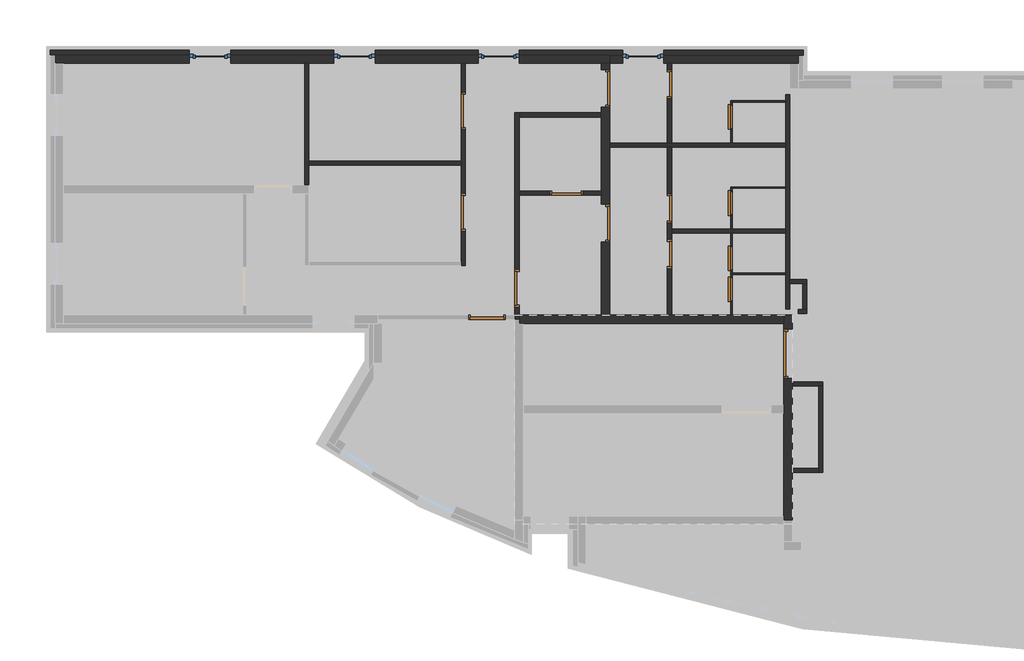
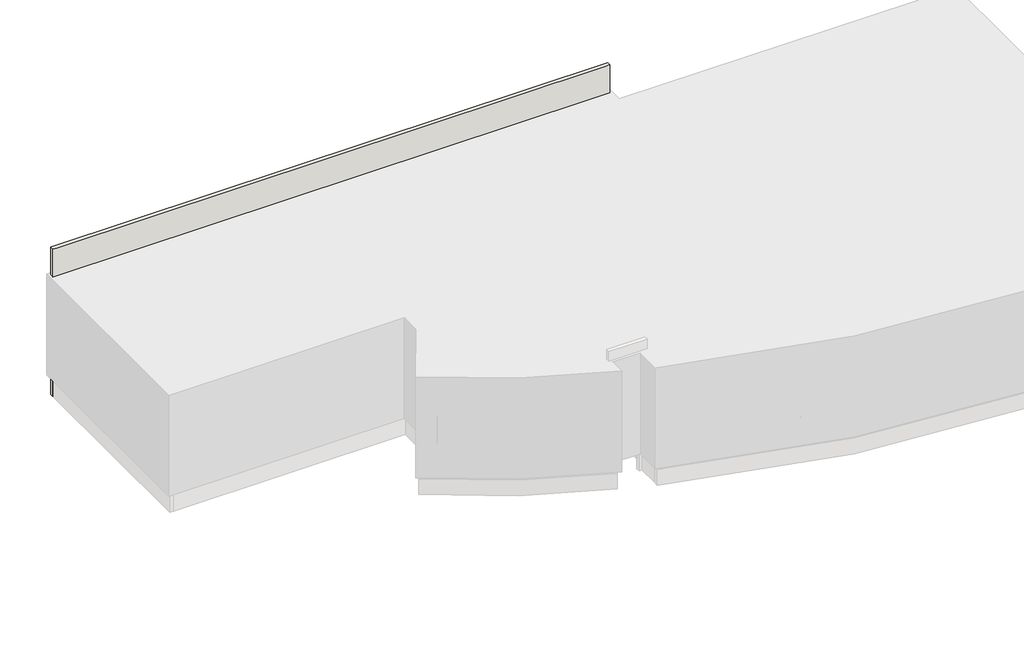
# One storey, part 3 of 4: 28 walls, 15 doors, 5 windows.
"""IFC4 building model written with IfcOpenShell, lengths in millimetres."""

from ifc_helpers import new_model, si_unit, frame, origin, place, context, project, spatial, polyline, outline, extrude, faceted_brep, transform, mapped, element, save
from components import door_d1c1a40c, door_af16f654, door_10fb9903, door_d8726fa8, door_8baa2d43, door_2df90ca5, door_64e12b20, door_9d3fb36d, door_8b928317, window_8d913581, window_b37a0a77

model = new_model("IFC4")

# Units and contexts
model_context = context("Model", 3, world=origin())
ifc_project = project(units=[si_unit("LENGTHUNIT", "METRE", prefix="MILLI")], contexts=[model_context])

# Site, building, storey
site = spatial("IfcSite", under=ifc_project)
building = spatial("IfcBuilding", under=site)
storey = spatial("IfcBuildingStorey", under=building, Name="Этаж 2", Elevation=3600.0)

# Doors
placement = place(None, origin())
door_shape = door_d1c1a40c(model_context)
element("IfcDoor", 1, ObjectType="(Dr)_ДУ(распашная)_1Ст_Прямоугольная : (Вн)_ДГ(0.91х2.1(h))", at=placement, inside=storey, context=model_context, shape_type="MappedRepresentation", body=[
    mapped(door_shape, transform((8300.4524319, 9834.6312226, 3600.0), x_axis=(0.0, 1.0, 0.0), y_axis=(-1.0, 0.0, 0.0), z_axis=(0.0, 0.0, 1.0))),
])
element("IfcDoor", 2, ObjectType="(Dr)_ДУ(распашная)_1Ст_Прямоугольная : (Вн)_ДГ(0.91х2.1(h))", at=placement, inside=storey, context=model_context, shape_type="MappedRepresentation", body=[
    mapped(door_shape, transform((8300.4524319, 7375.0, 3600.0), x_axis=(0.0, 1.0, 0.0), y_axis=(-1.0, 0.0, 0.0), z_axis=(0.0, 0.0, 1.0))),
])
element("IfcDoor", 3, ObjectType="(Dr)_ДУ(распашная)_1Ст_Прямоугольная : (Вн)_ДГ(0.91х2.1(h))", at=placement, inside=storey, context=model_context, shape_type="MappedRepresentation", body=[
    mapped(door_shape, transform((8875.1478669, 4830.0, 3600.0), x_axis=(-1.0, 0.0, 0.0), y_axis=(0.0, -1.0, 0.0), z_axis=(0.0, 0.0, 1.0))),
])
element("IfcDoor", 4, ObjectType="(Dr)_ДУ(распашная)_1Ст_Прямоугольная : (Вн)_ДГ(0.91х2.1(h))", at=placement, inside=storey, context=model_context, shape_type="MappedRepresentation", body=[
    mapped(door_shape, transform((9600.291724, 5534.5546453, 3600.0), x_axis=(0.0, 1.0, 0.0), y_axis=(-1.0, 0.0, 0.0), z_axis=(0.0, 0.0, 1.0))),
])
door_2_shape = door_af16f654(model_context)
element("IfcDoor", 5, ObjectType="(Dr)_ДУ(распашная)_1Ст_Прямоугольная : (Вн)_ДГ(0.91х2.1(h))", at=placement, inside=storey, context=model_context, shape_type="MappedRepresentation", body=[
    mapped(door_2_shape, transform((11750.0, 10382.7208987, 3600.0), x_axis=(0.0, -1.0, 0.0), y_axis=(1.0, 0.0, 0.0), z_axis=(0.0, 0.0, 1.0))),
])
door_3_shape = door_10fb9903(model_context)
element("IfcDoor", 6, ObjectType="(Dr)_ДУ(распашная)_1Ст_Прямоугольная : (Вн)_ДГ(0.81х2.1(h))", at=placement, inside=storey, context=model_context, shape_type="MappedRepresentation", body=[
    mapped(door_3_shape, transform((10805.0, 7840.0000036, 3600.0), x_axis=(-1.0, 0.0, 0.0), y_axis=(0.0, -1.0, 0.0), z_axis=(0.0, 0.0, 1.0))),
])
door_4_shape = door_d8726fa8(model_context)
element("IfcDoor", 7, ObjectType="(Dr)_ДУ(распашная)_1Ст_Прямоугольная : (Вн)_ДГ(0.71х2.1(h))", at=placement, inside=storey, context=model_context, shape_type="MappedRepresentation", body=[
    mapped(door_4_shape, transform((13299.9988356, 6365.1415948, 3600.0), x_axis=(0.0, -1.0, 0.0), y_axis=(1.0, 0.0, 0.0), z_axis=(0.0, 0.0, 1.0))),
])
element("IfcDoor", 8, ObjectType="(Dr)_ДУ(распашная)_1Ст_Прямоугольная : (Вн)_ДГ(0.71х2.1(h))", at=placement, inside=storey, context=model_context, shape_type="MappedRepresentation", body=[
    mapped(door_4_shape, transform((13299.9988356, 10484.6777763, 3600.0), x_axis=(0.0, -1.0, 0.0), y_axis=(1.0, 0.0, 0.0), z_axis=(0.0, 0.0, 1.0))),
])
door_5_shape = door_8baa2d43(model_context)
element("IfcDoor", 9, ObjectType="(Dr)_ДУ(распашная)_1Ст_Прямоугольная : (Вн)_ДГ(0.71х2.1(h))", at=placement, inside=storey, context=model_context, shape_type="MappedRepresentation", body=[
    mapped(door_5_shape, transform((13299.9988356, 7474.6501506, 3600.0), x_axis=(0.0, -1.0, 0.0), y_axis=(1.0, 0.0, 0.0), z_axis=(0.0, 0.0, 1.0))),
])
door_6_shape = door_2df90ca5(model_context)
element("IfcDoor", 10, ObjectType="(Dr)_ДУ(распашная)_1Ст_Прямоугольная : (Вн)_ДГ(0.6х2.1(h)) с/у", at=placement, inside=storey, context=model_context, shape_type="MappedRepresentation", body=[
    mapped(door_6_shape, transform((14804.9988356, 7600.0, 3600.0), x_axis=(0.0, -1.0, 0.0), y_axis=(1.0, 0.0, 0.0), z_axis=(0.0, 0.0, 1.0))),
])
element("IfcDoor", 11, ObjectType="(Dr)_ДУ(распашная)_1Ст_Прямоугольная : (Вн)_ДГ(0.6х2.1(h)) с/у", at=placement, inside=storey, context=model_context, shape_type="MappedRepresentation", body=[
    mapped(door_6_shape, transform((14804.9988356, 5510.0, 3600.0), x_axis=(0.0, -1.0, 0.0), y_axis=(1.0, 0.0, 0.0), z_axis=(0.0, 0.0, 1.0))),
])
element("IfcDoor", 12, ObjectType="(Dr)_ДУ(распашная)_1Ст_Прямоугольная : (Вн)_ДГ(0.6х2.1(h)) с/у", at=placement, inside=storey, context=model_context, shape_type="MappedRepresentation", body=[
    mapped(door_6_shape, transform((14804.9988356, 9690.0, 3600.0), x_axis=(0.0, -1.0, 0.0), y_axis=(1.0, 0.0, 0.0), z_axis=(0.0, 0.0, 1.0))),
])
door_7_shape = door_64e12b20(model_context)
element("IfcDoor", 13, ObjectType="(Dr)_ДУ(распашная)_1Ст_Прямоугольная : (Вн)_ДГ(0.6х2.1(h)) с/у", at=placement, inside=storey, context=model_context, shape_type="MappedRepresentation", body=[
    mapped(door_7_shape, transform((14804.9988356, 6260.0, 3600.0), x_axis=(0.0, -1.0, 0.0), y_axis=(1.0, 0.0, 0.0), z_axis=(0.0, 0.0, 1.0))),
])
door_8_shape = door_9d3fb36d(model_context)
element("IfcDoor", 14, ObjectType="(Dr)_ДУ(распашная)_1Ст_Прямоугольная : (Вн)_ДГ(1.20х2.1(h))", at=placement, inside=storey, context=model_context, shape_type="MappedRepresentation", body=[
    mapped(door_8_shape, transform((16170.291724, 3940.0, 3600.0), x_axis=(0.0, 1.0, 0.0), y_axis=(-1.0, 0.0, 0.0), z_axis=(0.0, 0.0, 1.0))),
])
door_9_shape = door_8b928317(model_context)
element("IfcDoor", 15, ObjectType="(Dr)_ДУ(распашная)_1Ст_Прямоугольная : (Вн)_ДГ(0.92х2.1(h))", at=placement, inside=storey, context=model_context, shape_type="MappedRepresentation", body=[
    mapped(door_9_shape, transform((11750.0, 7109.9999665, 3600.0), x_axis=(0.0, -1.0, 0.0), y_axis=(1.0, 0.0, 0.0), z_axis=(0.0, 0.0, 1.0))),
])

# Walls
element("IfcWall", 16, ObjectType="(Нр)_(ЖБ-200)", at=placement, inside=storey, context=model_context, shape_type="Brep", body=[
    faceted_brep([(-1595.9332962, 10990.0, 3500.0), (-1395.9332962, 10990.0, 3500.0), (11650.0, 10990.0, 3500.0), (11850.0, 10990.0, 3500.0), (11850.0, 10990.0, 6900.0), (11650.0, 10990.0, 6900.0), (-1395.9332962, 10990.0, 6900.0), (-1595.9332962, 10990.0, 6900.0), (1660.0, 10990.0, 6420.0), (2660.0, 10990.0, 6420.0), (2660.0, 10990.0, 4420.0), (1660.0, 10990.0, 4420.0), (5160.0, 10990.0, 6420.0), (6160.0, 10990.0, 6420.0), (6160.0, 10990.0, 4420.0), (5160.0, 10990.0, 4420.0), (8660.0, 10990.0, 6420.0), (9660.0, 10990.0, 6420.0), (9660.0, 10990.0, 4420.0), (8660.0, 10990.0, 4420.0), (-1595.9332962, 11190.0, 3500.0), (-1595.9332962, 11190.0, 6900.0), (11850.0, 11190.0, 6900.0), (11850.0, 11190.0, 3500.0), (1660.0, 11190.0, 6420.0), (1660.0, 11190.0, 4420.0), (2660.0, 11190.0, 4420.0), (2660.0, 11190.0, 6420.0), (5160.0, 11190.0, 6420.0), (5160.0, 11190.0, 4420.0), (6160.0, 11190.0, 4420.0), (6160.0, 11190.0, 6420.0), (8660.0, 11190.0, 6420.0), (8660.0, 11190.0, 4420.0), (9660.0, 11190.0, 4420.0), (9660.0, 11190.0, 6420.0)], [[[0, 1, 2, 3, 4, 5, 6, 7], [8, 9, 10, 11], [12, 13, 14, 15], [16, 17, 18, 19]], [[20, 21, 22, 23], [24, 25, 26, 27], [28, 29, 30, 31], [32, 33, 34, 35]], [[3, 2, 1, 0, 20, 23]], [[7, 6, 5, 4, 22, 21]], [[0, 7, 21, 20]], [[4, 3, 23, 22]], [[25, 24, 8, 11]], [[26, 25, 11, 10]], [[27, 26, 10, 9]], [[24, 27, 9, 8]], [[29, 28, 12, 15]], [[30, 29, 15, 14]], [[31, 30, 14, 13]], [[28, 31, 13, 12]], [[33, 32, 16, 19]], [[34, 33, 19, 18]], [[35, 34, 18, 17]], [[32, 35, 17, 16]]]),
])
element("IfcWall", 17, ObjectType="(Вн)_(Пг-100)", at=placement, inside=storey, context=model_context, shape_type="Brep", body=[
    faceted_brep([(4450.043372, 10990.0, 3500.0), (4450.043372, 8035.0, 3500.0), (4450.043372, 8035.0, 6900.0), (4450.043372, 10990.0, 6900.0), (4550.043372, 10990.0, 3500.0), (4550.043372, 10990.0, 6900.0), (4550.043372, 8620.1348886, 6900.0), (4550.043372, 8520.1348886, 6900.0), (4550.043372, 8035.0, 6900.0), (4550.043372, 8035.0, 3500.0), (4550.043372, 8520.1348886, 3500.0), (4550.043372, 8620.1348886, 3500.0)], [[[0, 1, 2, 3]], [[4, 5, 6, 7, 8, 9, 10, 11]], [[1, 0, 4, 11, 10, 9]], [[3, 2, 8, 7, 6, 5]], [[2, 1, 9, 8]], [[0, 3, 5, 4]]]),
])
element("IfcWall", 18, ObjectType="(Нр)_(Ут-120.От-90)", at=placement, inside=storey, context=model_context, shape_type="Brep", body=[
    faceted_brep([(-1715.9332962, 11190.0, 8070.0), (-1715.9332962, 11190.0, 6900.0), (-1715.9332962, 11190.0, 2955.0), (-1595.9332962, 11190.0, 2955.0), (16539.9987544, 11190.0, 2955.0), (16539.9987544, 11190.0, 3501.2887174), (16539.9987544, 11190.0, 6700.0), (16539.9987544, 11190.0, 8070.0), (16369.9987544, 11190.0, 8070.0), (-1595.9332962, 11190.0, 8070.0), (1660.0, 11190.0, 6420.0), (2660.0, 11190.0, 6420.0), (2660.0, 11190.0, 4420.0), (1660.0, 11190.0, 4420.0), (5160.0, 11190.0, 6420.0), (6160.0, 11190.0, 6420.0), (6160.0, 11190.0, 4420.0), (5160.0, 11190.0, 4420.0), (8660.0, 11190.0, 6420.0), (9660.0, 11190.0, 6420.0), (9660.0, 11190.0, 4420.0), (8660.0, 11190.0, 4420.0), (12159.847258, 11190.0, 6420.0), (13159.847258, 11190.0, 6420.0), (13159.847258, 11190.0, 4420.0), (12159.847258, 11190.0, 4420.0), (-1715.9332962, 11310.0, 2955.0), (-1715.9332962, 11310.0, 8070.0), (16539.9987544, 11310.0, 8070.0), (16539.9987544, 11310.0, 2955.0), (2660.0, 11310.0, 6420.0), (1660.0, 11310.0, 6420.0), (1660.0, 11310.0, 4460.0), (2660.0, 11310.0, 4460.0), (6160.0, 11310.0, 6420.0), (5160.0, 11310.0, 6420.0), (5160.0, 11310.0, 4460.0), (6160.0, 11310.0, 4460.0), (9660.0, 11310.0, 6420.0), (8660.0, 11310.0, 6420.0), (8660.0, 11310.0, 4460.0), (9660.0, 11310.0, 4460.0), (13159.847258, 11310.0, 6420.0), (12159.847258, 11310.0, 6420.0), (12159.847258, 11310.0, 4460.0), (13159.847258, 11310.0, 4460.0), (1660.0, 11210.0, 4420.0), (2660.0, 11210.0, 4420.0), (2660.0, 11210.0, 4460.0), (1660.0, 11210.0, 4460.0), (1660.0, 11285.434827, 6420.0), (2660.0, 11285.434827, 6420.0), (1660.0, 11285.434827, 4460.0), (2660.0, 11285.434827, 4460.0), (5160.0, 11210.0, 4420.0), (6160.0, 11210.0, 4420.0), (6160.0, 11210.0, 4460.0), (5160.0, 11210.0, 4460.0), (5160.0, 11285.434827, 6420.0), (6160.0, 11285.434827, 6420.0), (5160.0, 11285.434827, 4460.0), (6160.0, 11285.434827, 4460.0), (8660.0, 11210.0, 4420.0), (9660.0, 11210.0, 4420.0), (9660.0, 11210.0, 4460.0), (8660.0, 11210.0, 4460.0), (8660.0, 11285.434827, 6420.0), (9660.0, 11285.434827, 6420.0), (8660.0, 11285.434827, 4460.0), (9660.0, 11285.434827, 4460.0), (12159.847258, 11210.0, 4420.0), (13159.847258, 11210.0, 4420.0), (13159.847258, 11210.0, 4460.0), (12159.847258, 11210.0, 4460.0), (12159.847258, 11285.434827, 6420.0), (13159.847258, 11285.434827, 6420.0), (12159.847258, 11285.434827, 4460.0), (13159.847258, 11285.434827, 4460.0)], [[[0, 1, 2, 3, 4, 5, 6, 7, 8, 9], [10, 11, 12, 13], [14, 15, 16, 17], [18, 19, 20, 21], [22, 23, 24, 25]], [[26, 27, 28, 29], [30, 31, 32, 33], [34, 35, 36, 37], [38, 39, 40, 41], [42, 43, 44, 45]], [[4, 3, 2, 26, 29]], [[0, 9, 8, 7, 28, 27]], [[0, 27, 26, 2, 1]], [[4, 29, 28, 7, 6, 5]], [[46, 47, 48, 49]], [[11, 10, 50, 31, 30, 51]], [[13, 46, 49, 52, 32, 31, 50, 10]], [[47, 46, 13, 12]], [[47, 12, 11, 51, 30, 33, 53, 48]], [[33, 32, 52, 49, 48, 53]], [[54, 55, 56, 57]], [[15, 14, 58, 35, 34, 59]], [[17, 54, 57, 60, 36, 35, 58, 14]], [[55, 54, 17, 16]], [[55, 16, 15, 59, 34, 37, 61, 56]], [[37, 36, 60, 57, 56, 61]], [[62, 63, 64, 65]], [[19, 18, 66, 39, 38, 67]], [[21, 62, 65, 68, 40, 39, 66, 18]], [[63, 62, 21, 20]], [[63, 20, 19, 67, 38, 41, 69, 64]], [[41, 40, 68, 65, 64, 69]], [[70, 71, 72, 73]], [[23, 22, 74, 43, 42, 75]], [[25, 70, 73, 76, 44, 43, 74, 22]], [[71, 70, 25, 24]], [[71, 24, 23, 75, 42, 45, 77, 72]], [[45, 44, 76, 73, 72, 77]]]),
])
element("IfcWall", 19, ObjectType="(Вн)_(Пг-100)", at=placement, inside=storey, context=model_context, shape_type="SweptSolid", body=[
    extrude(outline(polyline([(8250.4524319, 8520.1348886), (4550.043372, 8520.1348886), (4550.043372, 8620.1348886), (8250.4524319, 8620.1348886), (8250.4524319, 8520.1348886)])), frame((0.0, 0.0, 3500.0), z_axis=(0.0, 0.0, 1.0), x_axis=(1.0, 0.0, 0.0)), (0.0, 0.0, 1.0), 3400.0),
])
element("IfcWall", 20, ObjectType="(Вн)_(Пг-100)", at=placement, inside=storey, context=model_context, shape_type="Brep", body=[
    faceted_brep([(8350.4524319, 6080.2697772, 3500.0), (8350.4524319, 10990.0, 3500.0), (8350.4524319, 10990.0, 6900.0), (8350.4524319, 6080.2697772, 6900.0), (8350.4524319, 10289.6312226, 5700.0), (8350.4524319, 10289.6312226, 3600.0), (8350.4524319, 9379.6312226, 3600.0), (8350.4524319, 9379.6312226, 5700.0), (8350.4524319, 7830.0, 5700.0), (8350.4524319, 7830.0, 3600.0), (8350.4524319, 6920.0, 3600.0), (8350.4524319, 6920.0, 5700.0), (8250.4524319, 6080.2697772, 3500.0), (8250.4524319, 6080.2697772, 6900.0), (8250.4524319, 6180.2697772, 6900.0), (8250.4524319, 8520.1348886, 6900.0), (8250.4524319, 8620.1348886, 6900.0), (8250.4524319, 10990.0, 6900.0), (8250.4524319, 10990.0, 3500.0), (8250.4524319, 8620.1348886, 3500.0), (8250.4524319, 8520.1348886, 3500.0), (8250.4524319, 6180.2697772, 3500.0), (8250.4524319, 10289.6312226, 3600.0), (8250.4524319, 10289.6312226, 5700.0), (8250.4524319, 9379.6312226, 5700.0), (8250.4524319, 9379.6312226, 3600.0), (8250.4524319, 7830.0, 3600.0), (8250.4524319, 7830.0, 5700.0), (8250.4524319, 6920.0, 5700.0), (8250.4524319, 6920.0, 3600.0)], [[[0, 1, 2, 3], [4, 5, 6, 7], [8, 9, 10, 11]], [[12, 13, 14, 15, 16, 17, 18, 19, 20, 21], [22, 23, 24, 25], [26, 27, 28, 29]], [[1, 0, 12, 21, 20, 19, 18]], [[3, 2, 17, 16, 15, 14, 13]], [[2, 1, 18, 17]], [[22, 5, 4, 23]], [[23, 4, 7, 24]], [[24, 7, 6, 25]], [[5, 22, 25, 6]], [[26, 9, 8, 27]], [[27, 8, 11, 28]], [[28, 11, 10, 29]], [[9, 26, 29, 10]], [[0, 3, 13, 12]]]),
])
element("IfcWall", 21, ObjectType="(Вн)_(Пг-100)", at=placement, inside=storey, context=model_context, shape_type="Brep", body=[
    faceted_brep([(9650.291724, 4780.0, 6900.0), (9650.291724, 4780.0, 3500.0), (9650.291724, 7790.0000036, 3500.0), (9650.291724, 7890.0000036, 3500.0), (9650.291724, 9689.9113454, 3500.0), (9650.291724, 9789.9113454, 3500.0), (9650.291724, 9789.9113454, 6900.0), (9650.291724, 9689.9113454, 6900.0), (9650.291724, 7890.0000036, 6900.0), (9650.291724, 7790.0000036, 6900.0), (9650.291724, 5989.5546453, 5700.0), (9650.291724, 5989.5546453, 3600.0), (9650.291724, 5079.5546453, 3600.0), (9650.291724, 5079.5546453, 5700.0), (9550.291724, 4780.0, 3500.0), (9550.291724, 4780.0, 6900.0), (9550.291724, 4880.0, 6900.0), (9550.291724, 9789.9113454, 6900.0), (9550.291724, 9789.9113454, 3500.0), (9550.291724, 4880.0, 3500.0), (9550.291724, 5989.5546453, 3600.0), (9550.291724, 5989.5546453, 5700.0), (9550.291724, 5079.5546453, 5700.0), (9550.291724, 5079.5546453, 3600.0)], [[[0, 1, 2, 3, 4, 5, 6, 7, 8, 9], [10, 11, 12, 13]], [[14, 15, 16, 17, 18, 19], [20, 21, 22, 23]], [[5, 4, 3, 2, 1, 14, 19, 18]], [[0, 9, 8, 7, 6, 17, 16, 15]], [[6, 5, 18, 17]], [[0, 15, 14, 1]], [[20, 11, 10, 21]], [[21, 10, 13, 22]], [[22, 13, 12, 23]], [[11, 20, 23, 12]]]),
])
element("IfcWall", 22, ObjectType="(Вн)_(Пг-100)", at=placement, inside=storey, context=model_context, shape_type="SweptSolid", body=[
    extrude(outline(polyline([(11650.0, 9689.9113454), (9650.291724, 9689.9113454), (9650.291724, 9789.9113454), (11650.0, 9789.9113454), (11650.0, 9689.9113454)])), frame((0.0, 0.0, 3500.0), z_axis=(0.0, 0.0, 1.0), x_axis=(1.0, 0.0, 0.0)), (0.0, 0.0, 1.0), 3400.0),
])
element("IfcWall", 23, ObjectType="(Вн)_(Пг-100)", at=placement, inside=storey, context=model_context, shape_type="SweptSolid", body=[
    extrude(outline(polyline([(3500.0, 9650.291724), (3500.0, 11650.0), (6900.0, 11650.0), (6900.0, 9650.291724), (3500.0, 9650.291724)]), holes=[polyline([(3600.0, 10400.0), (5700.0, 10400.0), (5700.0, 11210.0), (3600.0, 11210.0), (3600.0, 10400.0)])]), frame((0.0, 7790.0000036, 0.0), z_axis=(0.0, 1.0, 0.0), x_axis=(0.0, 0.0, 1.0)), (0.0, 0.0, 1.0), 100.0),
])
element("IfcWall", 24, ObjectType="(Вн)_(ЖБ-200)", at=placement, inside=storey, context=model_context, shape_type="SweptSolid", body=[
    extrude(outline(polyline([(10990.0, 3500.0), (4880.0, 3500.0), (4880.0, 6900.0), (10990.0, 6900.0), (10990.0, 3500.0)]), holes=[polyline([(6649.9999665, 5700.0), (6649.9999665, 3600.0), (7569.9999665, 3600.0), (7569.9999665, 5700.0), (6649.9999665, 5700.0)]), polyline([(9927.7208987, 5700.0), (9927.7208987, 3600.0), (10837.7208987, 3600.0), (10837.7208987, 5700.0), (9927.7208987, 5700.0)])]), frame((11650.0, 0.0, 0.0), z_axis=(1.0, 0.0, 0.0), x_axis=(0.0, 1.0, 0.0)), (0.0, 0.0, 1.0), 200.0),
])
element("IfcWall", 25, ObjectType="(Вн).(Пг-100) Влагостойкий", at=placement, inside=storey, context=model_context, shape_type="Brep", body=[
    faceted_brep([(11850.0, 8960.0, 3500.0), (13249.9988356, 8960.0, 3500.0), (13349.9988356, 8960.0, 3500.0), (16119.9988356, 8960.0, 3500.0), (16119.9988356, 8960.0, 6900.0), (13349.9988356, 8960.0, 6900.0), (13249.9988356, 8960.0, 6900.0), (11850.0, 8960.0, 6900.0), (11850.0, 9060.0, 3500.0), (11850.0, 9060.0, 6900.0), (13249.9988356, 9060.0, 6900.0), (13349.9988356, 9060.0, 6900.0), (16119.9988356, 9060.0, 6900.0), (16119.9988356, 9060.0, 3500.0), (13349.9988356, 9060.0, 3500.0), (13249.9988356, 9060.0, 3500.0)], [[[0, 1, 2, 3, 4, 5, 6, 7]], [[8, 9, 10, 11, 12, 13, 14, 15]], [[3, 2, 1, 0, 8, 15, 14, 13]], [[7, 6, 5, 4, 12, 11, 10, 9]], [[0, 7, 9, 8]], [[4, 3, 13, 12]]]),
])
element("IfcWall", 26, ObjectType="(Вн).(Пг-100) Влагостойкий", at=placement, inside=storey, context=model_context, shape_type="Brep", body=[
    faceted_brep([(13249.9988356, 10990.0, 6900.0), (13249.9988356, 10990.0, 3500.0), (13249.9988356, 9060.0, 3500.0), (13249.9988356, 9060.0, 6900.0), (13249.9988356, 10129.6777763, 5700.0), (13249.9988356, 10129.6777763, 3600.0), (13249.9988356, 10839.6777763, 3600.0), (13249.9988356, 10839.6777763, 5700.0), (13349.9988356, 10990.0, 3500.0), (13349.9988356, 10990.0, 6900.0), (13349.9988356, 9060.0, 6900.0), (13349.9988356, 9060.0, 3500.0), (13349.9988356, 10129.6777763, 3600.0), (13349.9988356, 10129.6777763, 5700.0), (13349.9988356, 10839.6777763, 5700.0), (13349.9988356, 10839.6777763, 3600.0)], [[[0, 1, 2, 3], [4, 5, 6, 7]], [[8, 9, 10, 11], [12, 13, 14, 15]], [[1, 8, 11, 2]], [[9, 0, 3, 10]], [[3, 2, 11, 10]], [[1, 0, 9, 8]], [[12, 5, 4, 13]], [[13, 4, 7, 14]], [[14, 7, 6, 15]], [[5, 12, 15, 6]]]),
    faceted_brep([(13249.9988356, 4880.0, 3500.0), (13249.9988356, 4880.0, 6900.0), (13249.9988356, 8960.0, 6900.0), (13249.9988356, 8960.0, 3500.0), (13249.9988356, 7119.6501506, 5700.0), (13249.9988356, 7119.6501506, 3600.0), (13249.9988356, 7829.6501506, 3600.0), (13249.9988356, 7829.6501506, 5700.0), (13249.9988356, 6010.1415948, 5700.0), (13249.9988356, 6010.1415948, 3600.0), (13249.9988356, 6720.1415948, 3600.0), (13249.9988356, 6720.1415948, 5700.0), (13349.9988356, 4880.0, 6900.0), (13349.9988356, 4880.0, 3500.0), (13349.9988356, 6870.0, 3500.0), (13349.9988356, 6970.0, 3500.0), (13349.9988356, 8960.0, 3500.0), (13349.9988356, 8960.0, 6900.0), (13349.9988356, 6970.0, 6900.0), (13349.9988356, 6870.0, 6900.0), (13349.9988356, 7119.6501506, 3600.0), (13349.9988356, 7119.6501506, 5700.0), (13349.9988356, 7829.6501506, 5700.0), (13349.9988356, 7829.6501506, 3600.0), (13349.9988356, 6010.1415948, 3600.0), (13349.9988356, 6010.1415948, 5700.0), (13349.9988356, 6720.1415948, 5700.0), (13349.9988356, 6720.1415948, 3600.0)], [[[0, 1, 2, 3], [4, 5, 6, 7], [8, 9, 10, 11]], [[12, 13, 14, 15, 16, 17, 18, 19], [20, 21, 22, 23], [24, 25, 26, 27]], [[13, 0, 3, 16, 15, 14]], [[1, 12, 19, 18, 17, 2]], [[3, 2, 17, 16]], [[1, 0, 13, 12]], [[20, 5, 4, 21]], [[21, 4, 7, 22]], [[22, 7, 6, 23]], [[5, 20, 23, 6]], [[24, 9, 8, 25]], [[25, 8, 11, 26]], [[26, 11, 10, 27]], [[9, 24, 27, 10]]]),
])
element("IfcWall", 27, ObjectType="(Вн)_(Пг-30) с/у", at=placement, inside=storey, context=model_context, shape_type="Brep", body=[
    faceted_brep([(14819.9988356, 10080.0, 6100.0), (14819.9988356, 10050.0, 6100.0), (14819.9988356, 9060.0, 6100.0), (14819.9988356, 9060.0, 3600.0), (14819.9988356, 9390.0, 3600.0), (14819.9988356, 9390.0, 5700.0), (14819.9988356, 9990.0, 5700.0), (14819.9988356, 9990.0, 3600.0), (14819.9988356, 10050.0, 3600.0), (14819.9988356, 10080.0, 3600.0), (14789.9988356, 9060.0, 6100.0), (14789.9988356, 10080.0, 6100.0), (14789.9988356, 10080.0, 3600.0), (14789.9988356, 9990.0, 3600.0), (14789.9988356, 9990.0, 5700.0), (14789.9988356, 9390.0, 5700.0), (14789.9988356, 9390.0, 3600.0), (14789.9988356, 9060.0, 3600.0)], [[[0, 1, 2, 3, 4, 5, 6, 7, 8, 9]], [[10, 11, 12, 13, 14, 15, 16, 17]], [[3, 17, 16, 4]], [[12, 9, 8, 7, 13]], [[2, 1, 0, 11, 10]], [[3, 2, 10, 17]], [[0, 9, 12, 11]], [[15, 5, 4, 16]], [[5, 15, 14, 6]], [[6, 14, 13, 7]]]),
])
element("IfcWall", 28, ObjectType="(Вн)_(Пг-30) с/у", at=placement, inside=storey, context=model_context, shape_type="SweptSolid", body=[
    extrude(outline(polyline([(16119.9988356, 10050.0), (14819.9988356, 10050.0), (14819.9988356, 10080.0), (16119.9988356, 10080.0), (16119.9988356, 10050.0)])), frame((0.0, 0.0, 3600.0), z_axis=(0.0, 0.0, 1.0), x_axis=(1.0, 0.0, 0.0)), (0.0, 0.0, 1.0), 2500.0),
])
element("IfcWall", 29, ObjectType="(Вн)_(Пг-30) с/у", at=placement, inside=storey, context=model_context, shape_type="Brep", body=[
    faceted_brep([(14789.9988356, 7960.0, 3500.0), (14819.9988356, 7960.0, 3500.0), (16119.9988356, 7960.0, 3500.0), (16119.9988356, 7960.0, 6100.0), (14819.9988356, 7960.0, 6100.0), (14789.9988356, 7960.0, 6100.0), (14789.9988356, 7990.0, 3500.0), (14789.9988356, 7990.0, 6100.0), (16119.9988356, 7990.0, 6100.0), (16119.9988356, 7990.0, 3500.0)], [[[0, 1, 2, 3, 4, 5]], [[6, 7, 8, 9]], [[2, 1, 0, 6, 9]], [[5, 4, 3, 8, 7]], [[0, 5, 7, 6]], [[3, 2, 9, 8]]]),
])
element("IfcWall", 30, ObjectType="(Вн)_(Пг-30) с/у", at=placement, inside=storey, context=model_context, shape_type="SweptSolid", body=[
    extrude(outline(polyline([(6970.0, 3500.0), (6970.0, 6100.0), (7960.0, 6100.0), (7960.0, 3500.0), (6970.0, 3500.0)]), holes=[polyline([(7300.0, 5700.0), (7300.0, 3600.0), (7900.0, 3600.0), (7900.0, 5700.0), (7300.0, 5700.0)])]), frame((14789.9988356, 0.0, 0.0), z_axis=(1.0, 0.0, 0.0), x_axis=(0.0, 1.0, 0.0)), (0.0, 0.0, 1.0), 30.0),
])
element("IfcWall", 31, ObjectType="(Вн)_(Пг-30) с/у", at=placement, inside=storey, context=model_context, shape_type="Brep", body=[
    faceted_brep([(14819.9988356, 4880.0, 6100.0), (14819.9988356, 4880.0, 3500.0), (14819.9988356, 5870.0, 3500.0), (14819.9988356, 5900.0, 3500.0), (14819.9988356, 6870.0, 3500.0), (14819.9988356, 6870.0, 6100.0), (14819.9988356, 5900.0, 6100.0), (14819.9988356, 5870.0, 6100.0), (14819.9988356, 5960.0, 3600.0), (14819.9988356, 5960.0, 5700.0), (14819.9988356, 6560.0, 5700.0), (14819.9988356, 6560.0, 3600.0), (14819.9988356, 5210.0, 3600.0), (14819.9988356, 5210.0, 5700.0), (14819.9988356, 5810.0, 5700.0), (14819.9988356, 5810.0, 3600.0), (14789.9988356, 4880.0, 3500.0), (14789.9988356, 4880.0, 6100.0), (14789.9988356, 6870.0, 6100.0), (14789.9988356, 6870.0, 3500.0), (14789.9988356, 5960.0, 5700.0), (14789.9988356, 5960.0, 3600.0), (14789.9988356, 6560.0, 3600.0), (14789.9988356, 6560.0, 5700.0), (14789.9988356, 5210.0, 5700.0), (14789.9988356, 5210.0, 3600.0), (14789.9988356, 5810.0, 3600.0), (14789.9988356, 5810.0, 5700.0)], [[[0, 1, 2, 3, 4, 5, 6, 7], [8, 9, 10, 11], [12, 13, 14, 15]], [[16, 17, 18, 19], [20, 21, 22, 23], [24, 25, 26, 27]], [[4, 3, 2, 1, 16, 19]], [[0, 7, 6, 5, 18, 17]], [[0, 17, 16, 1]], [[8, 21, 20, 9]], [[9, 20, 23, 10]], [[10, 23, 22, 11]], [[21, 8, 11, 22]], [[12, 25, 24, 13]], [[13, 24, 27, 14]], [[14, 27, 26, 15]], [[25, 12, 15, 26]], [[5, 4, 19, 18]]]),
])
element("IfcWall", 32, ObjectType="(Вн)_(Пг-30) с/у", at=placement, inside=storey, context=model_context, shape_type="SweptSolid", body=[
    extrude(outline(polyline([(14819.9988356, 5900.0), (16119.9988356, 5900.0), (16119.9988356, 5870.0), (14819.9988356, 5870.0), (14819.9988356, 5900.0)])), frame((0.0, 0.0, 3500.0), z_axis=(0.0, 0.0, 1.0), x_axis=(1.0, 0.0, 0.0)), (0.0, 0.0, 1.0), 2600.0),
])
element("IfcWall", 33, ObjectType="(Нр)_(ПБ-200)", at=placement, inside=storey, context=model_context, shape_type="Brep", body=[
    faceted_brep([(11850.0, 10990.0, 3500.0), (13249.9988356, 10990.0, 3500.0), (13349.9988356, 10990.0, 3500.0), (16219.9987544, 10990.0, 3500.0), (16419.9987544, 10990.0, 3500.0), (16419.9987544, 10990.0, 6700.0), (16419.9987544, 10990.0, 6900.0), (13349.9988356, 10990.0, 6900.0), (13249.9988356, 10990.0, 6900.0), (11850.0, 10990.0, 6900.0), (12159.847258, 10990.0, 6420.0), (13159.847258, 10990.0, 6420.0), (13159.847258, 10990.0, 4420.0), (12159.847258, 10990.0, 4420.0), (11850.0, 11190.0, 3500.0), (11850.0, 11190.0, 6900.0), (16419.9987544, 11190.0, 6900.0), (16419.9987544, 11190.0, 3500.0), (12159.847258, 11190.0, 6420.0), (12159.847258, 11190.0, 4420.0), (13159.847258, 11190.0, 4420.0), (13159.847258, 11190.0, 6420.0)], [[[0, 1, 2, 3, 4, 5, 6, 7, 8, 9], [10, 11, 12, 13]], [[14, 15, 16, 17], [18, 19, 20, 21]], [[4, 3, 2, 1, 0, 14, 17]], [[9, 8, 7, 6, 16, 15]], [[0, 9, 15, 14]], [[6, 5, 4, 17, 16]], [[19, 18, 10, 13]], [[20, 19, 13, 12]], [[21, 20, 12, 11]], [[18, 21, 11, 10]]]),
])
element("IfcWall", 34, ObjectType="(Вн)_(ЖБ-200)", at=placement, inside=storey, context=model_context, shape_type="Brep", body=[
    faceted_brep([(16270.291724, -100.0, 3500.0), (16270.291724, 4880.0, 3500.0), (16270.291724, 4880.0, 5700.0), (16270.291724, 4540.0, 5700.0), (16270.291724, 4540.0, 3600.0), (16270.291724, 3340.0, 3600.0), (16270.291724, 3340.0, 5700.0), (16270.291724, -100.0, 5700.0), (16070.291724, 4880.0, 3500.0), (16070.291724, 4680.0, 3500.0), (16070.291724, 2700.0, 3500.0), (16070.291724, 2500.0, 3500.0), (16070.291724, 0.0, 3500.0), (16070.291724, -100.0, 3500.0), (16070.291724, -100.0, 5700.0), (16070.291724, 0.0, 5700.0), (16070.291724, 2500.0, 5700.0), (16070.291724, 2700.0, 5700.0), (16070.291724, 3340.0, 5700.0), (16070.291724, 3340.0, 3600.0), (16070.291724, 4540.0, 3600.0), (16070.291724, 4540.0, 5700.0), (16070.291724, 4680.0, 5700.0), (16070.291724, 4880.0, 5700.0)], [[[0, 1, 2, 3, 4, 5, 6, 7]], [[8, 9, 10, 11, 12, 13, 14, 15, 16, 17, 18, 19, 20, 21, 22, 23]], [[1, 0, 13, 12, 11, 10, 9, 8]], [[14, 7, 6, 18, 17, 16, 15]], [[2, 23, 22, 21, 3]], [[0, 7, 14, 13]], [[2, 1, 8, 23]], [[20, 4, 3, 21]], [[5, 19, 18, 6]], [[4, 20, 19, 5]]]),
])
element("IfcWall", 35, ObjectType="(Вн)_(Пг-100)", at=placement, inside=storey, context=model_context, shape_type="Brep", body=[
    faceted_brep([(16270.291724, 3159.9999996, 6900.0), (16270.291724, 3159.9999996, 3500.0), (16919.5672054, 3159.9999996, 3500.0), (17019.5672054, 3159.9999996, 3500.0), (17019.5672054, 3159.9999996, 6900.0), (16919.5672054, 3159.9999996, 6900.0), (16270.291724, 3259.9999996, 3500.0), (16270.291724, 3259.9999996, 6900.0), (17019.5672054, 3259.9999996, 6900.0), (17019.5672054, 3259.9999996, 3500.0)], [[[0, 1, 2, 3, 4, 5]], [[6, 7, 8, 9]], [[3, 2, 1, 6, 9]], [[0, 5, 4, 8, 7]], [[0, 7, 6, 1]], [[4, 3, 9, 8]]]),
])
element("IfcWall", 36, ObjectType="(Вн)_(Пг-100)", at=placement, inside=storey, context=model_context, shape_type="Brep", body=[
    faceted_brep([(16919.5672054, 3159.9999996, 3500.0), (16919.5672054, 1159.6640199, 3500.0), (16919.5672054, 1059.6640199, 3500.0), (16919.5672054, 1059.6640199, 6900.0), (16919.5672054, 1159.6640199, 6900.0), (16919.5672054, 3159.9999996, 6900.0), (17019.5672054, 3159.9999996, 3500.0), (17019.5672054, 3159.9999996, 6900.0), (17019.5672054, 1059.6640199, 6900.0), (17019.5672054, 1059.6640199, 3500.0)], [[[0, 1, 2, 3, 4, 5]], [[6, 7, 8, 9]], [[2, 1, 0, 6, 9]], [[5, 4, 3, 8, 7]], [[0, 5, 7, 6]], [[3, 2, 9, 8]]]),
])
element("IfcWall", 37, ObjectType="(Вн)_(Пг-100)", at=placement, inside=storey, context=model_context, shape_type="SweptSolid", body=[
    extrude(outline(polyline([(16270.291724, 1159.6640199), (16919.5672054, 1159.6640199), (16919.5672054, 1059.6640199), (16270.291724, 1059.6640199), (16270.291724, 1159.6640199)])), frame((0.0, 0.0, 3500.0), z_axis=(0.0, 0.0, 1.0), x_axis=(1.0, 0.0, 0.0)), (0.0, 0.0, 1.0), 3400.0),
])
element("IfcWall", 38, ObjectType="(Вн)_(ЖБ-200)", at=placement, inside=storey, context=model_context, shape_type="Brep", body=[
    faceted_brep([(16070.291724, 4880.0, 3500.0), (9650.291724, 4880.0, 3500.0), (9650.291724, 4880.0, 5700.0), (16070.291724, 4880.0, 5700.0), (16070.291724, 4680.0, 3500.0), (16070.291724, 4680.0, 5700.0), (9750.291724, 4680.0, 5700.0), (9650.291724, 4680.0, 5700.0), (9650.291724, 4680.0, 3500.0), (9750.291724, 4680.0, 3500.0), (9650.291724, 4780.0, 3500.0), (9650.291724, 4780.0, 5700.0)], [[[0, 1, 2, 3]], [[4, 5, 6, 7, 8, 9]], [[1, 0, 4, 9, 8, 10]], [[3, 2, 11, 7, 6, 5]], [[2, 1, 10, 8, 7, 11]], [[0, 3, 5, 4]]]),
])
element("IfcWall", 39, ObjectType="(Вн).(Пг-100) Влагостойкий", at=placement, inside=storey, context=model_context, shape_type="Brep", body=[
    faceted_brep([(16119.9988356, 10230.0, 3500.0), (16119.9988356, 9060.0, 3500.0), (16119.9988356, 8960.0, 3500.0), (16119.9988356, 7990.0, 3500.0), (16119.9988356, 7960.0, 3500.0), (16119.9988356, 6970.0, 3500.0), (16119.9988356, 6870.0, 3500.0), (16119.9988356, 5900.0, 3500.0), (16119.9988356, 5870.0, 3500.0), (16119.9988356, 5030.0, 3500.0), (16119.9988356, 5030.0, 6900.0), (16119.9988356, 6870.0, 6900.0), (16119.9988356, 6970.0, 6900.0), (16119.9988356, 8960.0, 6900.0), (16119.9988356, 9060.0, 6900.0), (16119.9988356, 10230.0, 6900.0), (16219.9988356, 10230.0, 3500.0), (16219.9988356, 10230.0, 6900.0), (16219.9988356, 5750.0, 6900.0), (16219.9988356, 5650.0, 6900.0), (16219.9988356, 5030.0, 6900.0), (16219.9988356, 5030.0, 3500.0), (16219.9988356, 5650.0, 3500.0), (16219.9988356, 5750.0, 3500.0)], [[[0, 1, 2, 3, 4, 5, 6, 7, 8, 9, 10, 11, 12, 13, 14, 15]], [[16, 17, 18, 19, 20, 21, 22, 23]], [[9, 8, 7, 6, 5, 4, 3, 2, 1, 0, 16, 23, 22, 21]], [[10, 9, 21, 20]], [[15, 14, 13, 12, 11, 10, 20, 19, 18, 17]], [[0, 15, 17, 16]]]),
])
element("IfcWall", 40, ObjectType="(Вн)_(Пг-100)", at=placement, inside=storey, context=model_context, shape_type="Brep", body=[
    faceted_brep([(16219.9988356, 5650.0, 3500.0), (16530.0005822, 5650.0, 3500.0), (16630.0005822, 5650.0, 3500.0), (16630.0005822, 5650.0, 6900.0), (16530.0005822, 5650.0, 6900.0), (16219.9988356, 5650.0, 6900.0), (16219.9988356, 5750.0, 3500.0), (16219.9988356, 5750.0, 6900.0), (16630.0005822, 5750.0, 6900.0), (16630.0005822, 5750.0, 3500.0)], [[[0, 1, 2, 3, 4, 5]], [[6, 7, 8, 9]], [[2, 1, 0, 6, 9]], [[5, 4, 3, 8, 7]], [[0, 5, 7, 6]], [[3, 2, 9, 8]]]),
])
element("IfcWall", 41, ObjectType="(Вн)_(Пг-100)", at=placement, inside=storey, context=model_context, shape_type="SweptSolid", body=[
    extrude(outline(polyline([(16530.0005822, 5021.7654473), (16530.0005822, 5650.0), (16630.0005822, 5650.0), (16630.0005822, 5021.7654473), (16530.0005822, 5021.7654473)])), frame((0.0, 0.0, 3500.0), z_axis=(0.0, 0.0, 1.0), x_axis=(1.0, 0.0, 0.0)), (0.0, 0.0, 1.0), 3400.0),
])
element("IfcWall", 42, ObjectType="(Вн)_(Пг-100)", at=placement, inside=storey, context=model_context, shape_type="Brep", body=[
    faceted_brep([(16630.0005822, 5021.7654473, 3500.0), (16530.0005822, 5021.7654473, 3500.0), (16420.0, 5021.7654473, 3500.0), (16420.0, 5021.7654473, 6900.0), (16530.0005822, 5021.7654473, 6900.0), (16630.0005822, 5021.7654473, 6900.0), (16630.0005822, 4921.7654473, 3500.0), (16630.0005822, 4921.7654473, 6900.0), (16420.0, 4921.7654473, 6900.0), (16420.0, 4921.7654473, 3500.0)], [[[0, 1, 2, 3, 4, 5]], [[6, 7, 8, 9]], [[2, 1, 0, 6, 9]], [[3, 2, 9, 8]], [[5, 4, 3, 8, 7]], [[0, 5, 7, 6]]]),
])
element("IfcWall", 43, ObjectType="(Вн).(Пг-100) Влагостойкий", at=placement, inside=storey, context=model_context, shape_type="Brep", body=[
    faceted_brep([(13349.9988356, 6870.0, 3500.0), (14789.9988356, 6870.0, 3500.0), (14819.9988356, 6870.0, 3500.0), (16119.9988356, 6870.0, 3500.0), (16119.9988356, 6870.0, 6900.0), (13349.9988356, 6870.0, 6900.0), (13349.9988356, 6970.0, 3500.0), (13349.9988356, 6970.0, 6900.0), (16119.9988356, 6970.0, 6900.0), (16119.9988356, 6970.0, 3500.0), (14819.9988356, 6970.0, 3500.0), (14789.9988356, 6970.0, 3500.0)], [[[0, 1, 2, 3, 4, 5]], [[6, 7, 8, 9, 10, 11]], [[3, 2, 1, 0, 6, 11, 10, 9]], [[5, 4, 8, 7]], [[0, 5, 7, 6]], [[4, 3, 9, 8]]]),
])

# Windows
window_shape = window_8d913581(model_context)
element("IfcWindow", 44, ObjectType="(WN)_Отверстие_Пол1 : ---", at=placement, inside=storey, context=model_context, shape_type="MappedRepresentation", body=[
    mapped(window_shape, transform((16370.0, 6005.2249764, 3600.0), x_axis=(0.0, 1.0, 0.0), y_axis=(-1.0, 0.0, 0.0), z_axis=(0.0, 0.0, 1.0))),
])
window_2_shape = window_b37a0a77(model_context)
element("IfcWindow", 45, ObjectType="RFAM2316_Window-10 : Window  FIX (1,0x2)", at=placement, inside=storey, context=model_context, shape_type="MappedRepresentation", body=[
    mapped(window_2_shape, transform((1903.1415906, 11254.9407167, 3520.0), x_axis=(1.0, 0.0, 0.0), y_axis=(0.0, 1.0, 0.0), z_axis=(0.0, 0.0, 1.0))),
])
element("IfcWindow", 46, ObjectType="RFAM2316_Window-10 : Window  FIX (1,0x2)", at=placement, inside=storey, context=model_context, shape_type="MappedRepresentation", body=[
    mapped(window_2_shape, transform((5403.1415906, 11254.9407167, 3520.0), x_axis=(1.0, 0.0, 0.0), y_axis=(0.0, 1.0, 0.0), z_axis=(0.0, 0.0, 1.0))),
])
element("IfcWindow", 47, ObjectType="RFAM2316_Window-10 : Window  FIX (1,0x2)", at=placement, inside=storey, context=model_context, shape_type="MappedRepresentation", body=[
    mapped(window_2_shape, transform((8903.1415906, 11254.9407167, 3520.0), x_axis=(1.0, 0.0, 0.0), y_axis=(0.0, 1.0, 0.0), z_axis=(0.0, 0.0, 1.0))),
])
element("IfcWindow", 48, ObjectType="RFAM2316_Window-10 : Window  FIX (1,0x2)", at=placement, inside=storey, context=model_context, shape_type="MappedRepresentation", body=[
    mapped(window_2_shape, transform((12402.9888486, 11254.9407167, 3520.0), x_axis=(1.0, 0.0, 0.0), y_axis=(0.0, 1.0, 0.0), z_axis=(0.0, 0.0, 1.0))),
])

save(model, "model.ifc")
